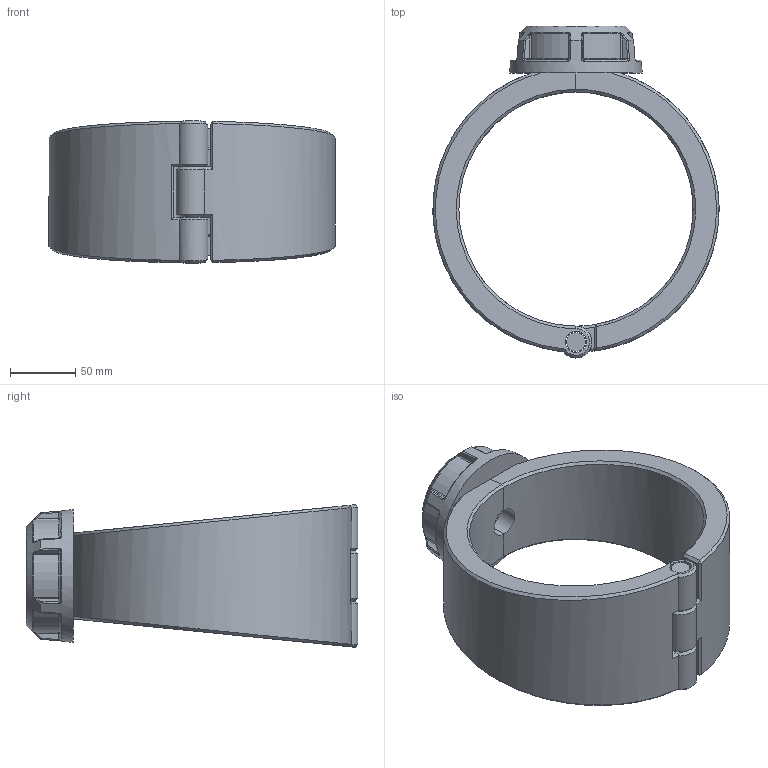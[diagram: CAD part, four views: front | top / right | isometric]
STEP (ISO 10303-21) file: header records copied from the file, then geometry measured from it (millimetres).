
FILE_DESCRIPTION(/* description */ ('Plassadle Threaded 180x1 1/2'''''),/* implementation_level */ '2;1');
FILE_NAME(/* name */ 'C:\Users\comp2\Dropbox\99-16-3568-Processing\Mechanical Fittings\16300\stp\163000180015.stp',/* time_stamp */ '2022-02-03T11:52:53+00:00',/* author */ ('comp2'),/* organization */ (''),/* preprocessor_version */ 'ST-DEVELOPER v17.2',/* originating_system */ 'Autodesk Inventor 2019',/* authorisation */ '');
FILE_SCHEMA (('AUTOMOTIVE_DESIGN { 1 0 10303 214 3 1 1 }','INTEGRATED_CNC_SCHEMA'));
Length unit declared in the file: millimetre
Products named in the file (1): 163000180015
Bounding box: 219.93 x 255 x 109.6 mm (x, y, z)
Volume: 1242313.7 mm3; surface area: 176947.3 mm2
Topology: 4 solids, 4 shells, 203 faces, 486 edges, 293 vertices
Faces by surface type: bspline 58, plane 53, cylinder 47, torus 18, cone 15, sphere 12
Full cylindrical faces by diameter (mm): 14.4 x1, 16.4 x3, 22.422 x1, 38.118 x1, 44.845 x1, 67.267 x1
Entity records: 8262 total; most frequent: CARTESIAN_POINT 3915, ORIENTED_EDGE 972, DIRECTION 781, EDGE_CURVE 486, AXIS2_PLACEMENT_3D 330, VERTEX_POINT 293, EDGE_LOOP 213, FACE_OUTER_BOUND 203
